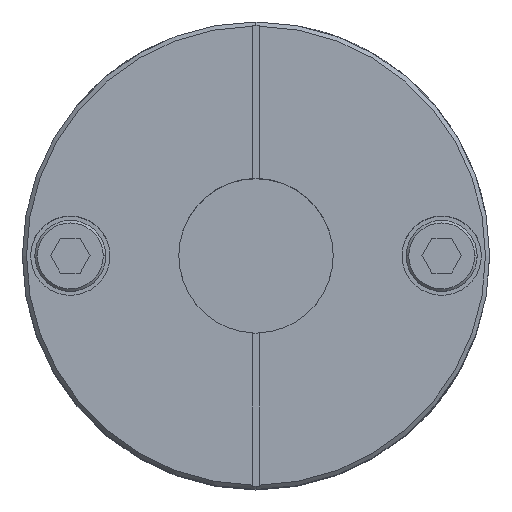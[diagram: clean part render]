
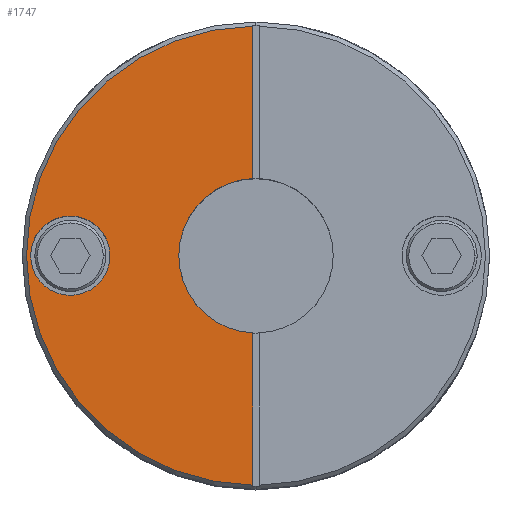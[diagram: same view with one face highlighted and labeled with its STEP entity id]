
A CAD part, top view. The second image highlights one B-rep face of the part: STEP entity #1747.
In plain terms, the highlighted planar face has unit normal (0, 0, 1).
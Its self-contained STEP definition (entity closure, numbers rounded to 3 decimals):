
#1700 = VERTEX_POINT ( 'NONE', #2935 ) ;
#1723 = VERTEX_POINT ( 'NONE', #3020 ) ;
#1724 = EDGE_CURVE ( 'NONE', #1725, #1723, #3040, .T. ) ;
#1725 = VERTEX_POINT ( 'NONE', #3013 ) ;
#1739 = ORIENTED_EDGE ( 'NONE', *, *, #1740, .F. ) ;
#1740 = EDGE_CURVE ( 'NONE', #1756, #1700, #3218, .T. ) ;
#1747 = ADVANCED_FACE ( 'NONE', ( #3203, #3202 ), #3201, .T. ) ;
#1756 = VERTEX_POINT ( 'NONE', #3179 ) ;
#1816 = EDGE_CURVE ( 'NONE', #1700, #1756, #3268, .T. ) ;
#2010 = ORIENTED_EDGE ( 'NONE', *, *, #2011, .F. ) ;
#2011 = EDGE_CURVE ( 'NONE', #1725, #2100, #3678, .T. ) ;
#2024 = EDGE_LOOP ( 'NONE', ( #1739, #2108 ) ) ;
#2030 = EDGE_CURVE ( 'NONE', #2111, #1723, #3768, .T. ) ;
#2031 = ORIENTED_EDGE ( 'NONE', *, *, #2099, .T. ) ;
#2099 = EDGE_CURVE ( 'NONE', #2111, #2100, #3711, .T. ) ;
#2100 = VERTEX_POINT ( 'NONE', #3712 ) ;
#2105 = ORIENTED_EDGE ( 'NONE', *, *, #1724, .T. ) ;
#2108 = ORIENTED_EDGE ( 'NONE', *, *, #1816, .F. ) ;
#2109 = EDGE_LOOP ( 'NONE', ( #2110, #2031, #2010, #2105 ) ) ;
#2110 = ORIENTED_EDGE ( 'NONE', *, *, #2030, .F. ) ;
#2111 = VERTEX_POINT ( 'NONE', #3640 ) ;
#2935 = CARTESIAN_POINT ( 'NONE',  ( -4.75, -22.25, 20. ) ) ;
#3013 = CARTESIAN_POINT ( 'NONE',  ( 9.242, -0.375, 20. ) ) ;
#3014 = DIRECTION ( 'NONE',  ( -1., 0., 0. ) ) ;
#3015 = DIRECTION ( 'NONE',  ( 0., 0., -1. ) ) ;
#3020 = CARTESIAN_POINT ( 'NONE',  ( -9.242, -0.375, 20. ) ) ;
#3038 = CARTESIAN_POINT ( 'NONE',  ( 0., 0., 20. ) ) ;
#3039 = AXIS2_PLACEMENT_3D ( 'NONE', #3038, #3015, #3014 ) ;
#3040 = CIRCLE ( 'NONE', #3039, 9.25 ) ;
#3179 = CARTESIAN_POINT ( 'NONE',  ( 4.75, -22.25, 20. ) ) ;
#3197 = DIRECTION ( 'NONE',  ( 1., 0., 0. ) ) ;
#3198 = DIRECTION ( 'NONE',  ( 0., 0., 1. ) ) ;
#3199 = CARTESIAN_POINT ( 'NONE',  ( 0., 0., 20. ) ) ;
#3200 = AXIS2_PLACEMENT_3D ( 'NONE', #3199, #3198, #3197 ) ;
#3201 = PLANE ( 'NONE',  #3200 ) ;
#3202 = FACE_OUTER_BOUND ( 'NONE', #2109, .T. ) ;
#3203 = FACE_BOUND ( 'NONE', #2024, .T. ) ;
#3214 = DIRECTION ( 'NONE',  ( 1., 0., 0. ) ) ;
#3215 = DIRECTION ( 'NONE',  ( 0., 0., 1. ) ) ;
#3216 = CARTESIAN_POINT ( 'NONE',  ( 0., -22.25, 20. ) ) ;
#3217 = AXIS2_PLACEMENT_3D ( 'NONE', #3216, #3215, #3214 ) ;
#3218 = CIRCLE ( 'NONE', #3217, 4.75 ) ;
#3264 = DIRECTION ( 'NONE',  ( 1., 0., 0. ) ) ;
#3265 = DIRECTION ( 'NONE',  ( 0., 0., 1. ) ) ;
#3266 = CARTESIAN_POINT ( 'NONE',  ( 0., -22.25, 20. ) ) ;
#3267 = AXIS2_PLACEMENT_3D ( 'NONE', #3266, #3265, #3264 ) ;
#3268 = CIRCLE ( 'NONE', #3267, 4.75 ) ;
#3640 = CARTESIAN_POINT ( 'NONE',  ( -27.497, -0.375, 20. ) ) ;
#3652 = DIRECTION ( 'NONE',  ( 1., 0., 0. ) ) ;
#3653 = DIRECTION ( 'NONE',  ( 0., 0., 1. ) ) ;
#3654 = CARTESIAN_POINT ( 'NONE',  ( 0., 0., 20. ) ) ;
#3655 = AXIS2_PLACEMENT_3D ( 'NONE', #3654, #3653, #3652 ) ;
#3675 = DIRECTION ( 'NONE',  ( 1., 0., 0. ) ) ;
#3676 = VECTOR ( 'NONE', #3675, 1000. ) ;
#3677 = CARTESIAN_POINT ( 'NONE',  ( -27.6, -0.375, 20. ) ) ;
#3678 = LINE ( 'NONE', #3677, #3676 ) ;
#3711 = CIRCLE ( 'NONE', #3655, 27.5 ) ;
#3712 = CARTESIAN_POINT ( 'NONE',  ( 27.497, -0.375, 20. ) ) ;
#3761 = DIRECTION ( 'NONE',  ( 1., 0., 0. ) ) ;
#3762 = VECTOR ( 'NONE', #3761, 1000. ) ;
#3763 = CARTESIAN_POINT ( 'NONE',  ( -27.6, -0.375, 20. ) ) ;
#3768 = LINE ( 'NONE', #3763, #3762 ) ;
